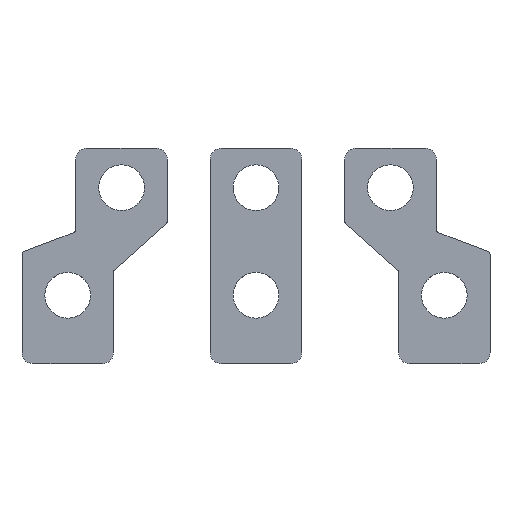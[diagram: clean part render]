
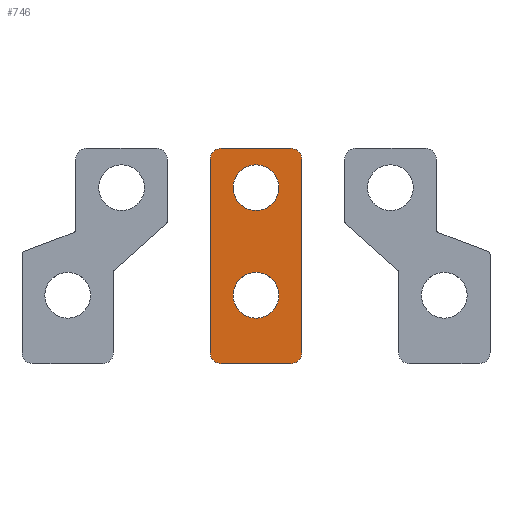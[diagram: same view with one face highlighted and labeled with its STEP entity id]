
A CAD part, top view. The second image highlights one B-rep face of the part: STEP entity #746.
In plain terms, the highlighted planar face has unit normal (0, 0, 1) as drawn and (0, 0, -1) by its records, which use the part's own axes.
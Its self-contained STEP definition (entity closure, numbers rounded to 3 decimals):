
#6 = ORIENTED_EDGE ( 'NONE', *, *, #912, .F. ) ;
#10 = EDGE_CURVE ( 'NONE', #948, #150, #1188, .T. ) ;
#15 = DIRECTION ( 'NONE',  ( 0., 0., -1. ) ) ;
#40 = CARTESIAN_POINT ( 'NONE',  ( -6.5, 32.7, 0. ) ) ;
#46 = CIRCLE ( 'NONE', #1028, 2. ) ;
#60 = DIRECTION ( 'NONE',  ( 1., 0., 0. ) ) ;
#61 = AXIS2_PLACEMENT_3D ( 'NONE', #417, #220, #1141 ) ;
#75 = CARTESIAN_POINT ( 'NONE',  ( -4.25, 20., 0. ) ) ;
#129 = VERTEX_POINT ( 'NONE', #895 ) ;
#150 = VERTEX_POINT ( 'NONE', #1286 ) ;
#162 = DIRECTION ( 'NONE',  ( 0., 0., -1. ) ) ;
#165 = VERTEX_POINT ( 'NONE', #75 ) ;
#201 = CIRCLE ( 'NONE', #338, 4.25 ) ;
#215 = EDGE_CURVE ( 'NONE', #129, #150, #576, .T. ) ;
#220 = DIRECTION ( 'NONE',  ( 0., 0., 1. ) ) ;
#234 = FACE_BOUND ( 'NONE', #322, .T. ) ;
#258 = VERTEX_POINT ( 'NONE', #986 ) ;
#260 = CARTESIAN_POINT ( 'NONE',  ( -6.5, 30.7, 0. ) ) ;
#278 = CARTESIAN_POINT ( 'NONE',  ( 0., 0., 0. ) ) ;
#311 = VECTOR ( 'NONE', #690, 1000. ) ;
#313 = LINE ( 'NONE', #545, #815 ) ;
#319 = EDGE_LOOP ( 'NONE', ( #6, #371, #385, #1111, #366, #462, #665, #909 ) ) ;
#322 = EDGE_LOOP ( 'NONE', ( #611, #998 ) ) ;
#325 = DIRECTION ( 'NONE',  ( 1., 0., 0. ) ) ;
#338 = AXIS2_PLACEMENT_3D ( 'NONE', #1126, #427, #1133 ) ;
#341 = CARTESIAN_POINT ( 'NONE',  ( 8.5, -5.3, 0. ) ) ;
#343 = EDGE_CURVE ( 'NONE', #922, #258, #872, .T. ) ;
#362 = CIRCLE ( 'NONE', #61, 4.25 ) ;
#366 = ORIENTED_EDGE ( 'NONE', *, *, #215, .F. ) ;
#371 = ORIENTED_EDGE ( 'NONE', *, *, #343, .T. ) ;
#385 = ORIENTED_EDGE ( 'NONE', *, *, #1180, .F. ) ;
#398 = VECTOR ( 'NONE', #997, 1000. ) ;
#401 = VERTEX_POINT ( 'NONE', #534 ) ;
#417 = CARTESIAN_POINT ( 'NONE',  ( 0., 20., 0. ) ) ;
#422 = EDGE_CURVE ( 'NONE', #401, #551, #201, .T. ) ;
#427 = DIRECTION ( 'NONE',  ( 0., 0., 1. ) ) ;
#431 = DIRECTION ( 'NONE',  ( -1., 0., 0. ) ) ;
#433 = CARTESIAN_POINT ( 'NONE',  ( 6.5, -5.3, 0. ) ) ;
#444 = DIRECTION ( 'NONE',  ( 0., 1., 0. ) ) ;
#462 = ORIENTED_EDGE ( 'NONE', *, *, #581, .T. ) ;
#466 = VERTEX_POINT ( 'NONE', #1241 ) ;
#486 = EDGE_CURVE ( 'NONE', #551, #401, #495, .T. ) ;
#495 = CIRCLE ( 'NONE', #1151, 4.25 ) ;
#534 = CARTESIAN_POINT ( 'NONE',  ( 4.25, 0., 0. ) ) ;
#545 = CARTESIAN_POINT ( 'NONE',  ( 8.5, 32.7, 0. ) ) ;
#551 = VERTEX_POINT ( 'NONE', #782 ) ;
#563 = VERTEX_POINT ( 'NONE', #583 ) ;
#568 = DIRECTION ( 'NONE',  ( 0., 0., -1. ) ) ;
#569 = CARTESIAN_POINT ( 'NONE',  ( -6.5, -5.3, 0. ) ) ;
#576 = LINE ( 'NONE', #613, #398 ) ;
#581 = EDGE_CURVE ( 'NONE', #129, #975, #803, .T. ) ;
#583 = CARTESIAN_POINT ( 'NONE',  ( 8.5, 30.7, 0. ) ) ;
#587 = DIRECTION ( 'NONE',  ( 1., 0., 0. ) ) ;
#611 = ORIENTED_EDGE ( 'NONE', *, *, #1134, .T. ) ;
#613 = CARTESIAN_POINT ( 'NONE',  ( -8.5, 32.7, 0. ) ) ;
#651 = VERTEX_POINT ( 'NONE', #678 ) ;
#656 = DIRECTION ( 'NONE',  ( 1., 0., 0. ) ) ;
#665 = ORIENTED_EDGE ( 'NONE', *, *, #871, .F. ) ;
#678 = CARTESIAN_POINT ( 'NONE',  ( 6.5, 32.7, 0. ) ) ;
#682 = DIRECTION ( 'NONE',  ( 1., 0., 0. ) ) ;
#690 = DIRECTION ( 'NONE',  ( 1., 0., 0. ) ) ;
#703 = DIRECTION ( 'NONE',  ( 1., 0., 0. ) ) ;
#723 = PLANE ( 'NONE',  #1213 ) ;
#746 = ADVANCED_FACE ( 'NONE', ( #857, #841, #234 ), #723, .F. ) ;
#752 = CIRCLE ( 'NONE', #938, 4.25 ) ;
#778 = CARTESIAN_POINT ( 'NONE',  ( 0., 20., 0. ) ) ;
#782 = CARTESIAN_POINT ( 'NONE',  ( -4.25, 0., 0. ) ) ;
#802 = VECTOR ( 'NONE', #431, 1000. ) ;
#803 = CIRCLE ( 'NONE', #1196, 2. ) ;
#815 = VECTOR ( 'NONE', #444, 1000. ) ;
#841 = FACE_BOUND ( 'NONE', #1270, .T. ) ;
#852 = EDGE_CURVE ( 'NONE', #466, #165, #362, .T. ) ;
#857 = FACE_OUTER_BOUND ( 'NONE', #319, .T. ) ;
#870 = DIRECTION ( 'NONE',  ( 1., 0., 0. ) ) ;
#871 = EDGE_CURVE ( 'NONE', #651, #975, #1293, .T. ) ;
#872 = CIRCLE ( 'NONE', #904, 2. ) ;
#876 = DIRECTION ( 'NONE',  ( 0., 0., -1. ) ) ;
#895 = CARTESIAN_POINT ( 'NONE',  ( -8.5, 30.7, 0. ) ) ;
#904 = AXIS2_PLACEMENT_3D ( 'NONE', #433, #15, #325 ) ;
#909 = ORIENTED_EDGE ( 'NONE', *, *, #1117, .T. ) ;
#912 = EDGE_CURVE ( 'NONE', #922, #563, #313, .T. ) ;
#922 = VERTEX_POINT ( 'NONE', #341 ) ;
#938 = AXIS2_PLACEMENT_3D ( 'NONE', #778, #961, #682 ) ;
#948 = VERTEX_POINT ( 'NONE', #950 ) ;
#950 = CARTESIAN_POINT ( 'NONE',  ( -6.5, -7.3, 0. ) ) ;
#961 = DIRECTION ( 'NONE',  ( 0., 0., 1. ) ) ;
#967 = CARTESIAN_POINT ( 'NONE',  ( -8.5, -7.3, 0. ) ) ;
#975 = VERTEX_POINT ( 'NONE', #40 ) ;
#986 = CARTESIAN_POINT ( 'NONE',  ( 6.5, -7.3, 0. ) ) ;
#997 = DIRECTION ( 'NONE',  ( 0., -1., 0. ) ) ;
#998 = ORIENTED_EDGE ( 'NONE', *, *, #852, .T. ) ;
#1024 = CARTESIAN_POINT ( 'NONE',  ( -8.5, 32.7, 0. ) ) ;
#1028 = AXIS2_PLACEMENT_3D ( 'NONE', #1066, #876, #587 ) ;
#1032 = AXIS2_PLACEMENT_3D ( 'NONE', #569, #162, #870 ) ;
#1066 = CARTESIAN_POINT ( 'NONE',  ( 6.5, 30.7, 0. ) ) ;
#1077 = ORIENTED_EDGE ( 'NONE', *, *, #422, .T. ) ;
#1111 = ORIENTED_EDGE ( 'NONE', *, *, #10, .T. ) ;
#1117 = EDGE_CURVE ( 'NONE', #651, #563, #46, .T. ) ;
#1119 = DIRECTION ( 'NONE',  ( 0., 0., 1. ) ) ;
#1126 = CARTESIAN_POINT ( 'NONE',  ( 0., 0., 0. ) ) ;
#1133 = DIRECTION ( 'NONE',  ( 1., 0., 0. ) ) ;
#1134 = EDGE_CURVE ( 'NONE', #165, #466, #752, .T. ) ;
#1141 = DIRECTION ( 'NONE',  ( 1., 0., 0. ) ) ;
#1151 = AXIS2_PLACEMENT_3D ( 'NONE', #1160, #1259, #656 ) ;
#1160 = CARTESIAN_POINT ( 'NONE',  ( 0., 0., 0. ) ) ;
#1180 = EDGE_CURVE ( 'NONE', #948, #258, #1231, .T. ) ;
#1188 = CIRCLE ( 'NONE', #1032, 2. ) ;
#1196 = AXIS2_PLACEMENT_3D ( 'NONE', #260, #568, #60 ) ;
#1213 = AXIS2_PLACEMENT_3D ( 'NONE', #278, #1119, #703 ) ;
#1231 = LINE ( 'NONE', #967, #311 ) ;
#1241 = CARTESIAN_POINT ( 'NONE',  ( 4.25, 20., 0. ) ) ;
#1259 = DIRECTION ( 'NONE',  ( 0., 0., 1. ) ) ;
#1270 = EDGE_LOOP ( 'NONE', ( #1296, #1077 ) ) ;
#1286 = CARTESIAN_POINT ( 'NONE',  ( -8.5, -5.3, 0. ) ) ;
#1293 = LINE ( 'NONE', #1024, #802 ) ;
#1296 = ORIENTED_EDGE ( 'NONE', *, *, #486, .T. ) ;
